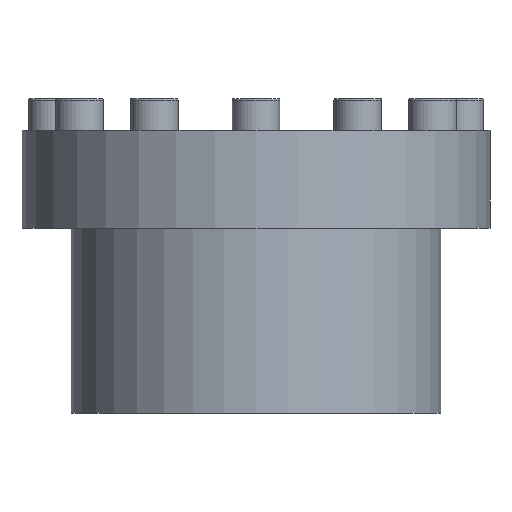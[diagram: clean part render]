
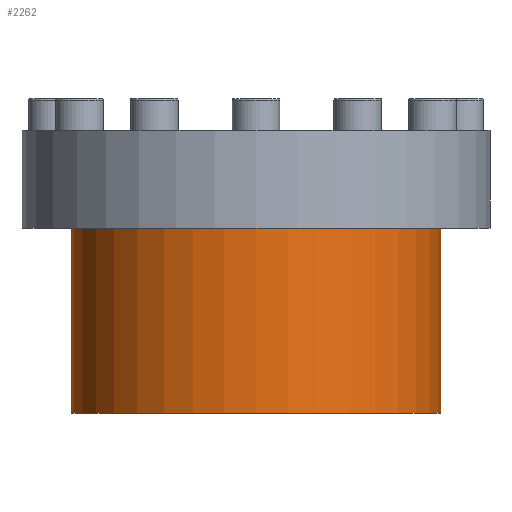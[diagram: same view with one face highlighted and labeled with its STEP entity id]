
A CAD part, front view. The second image highlights one B-rep face of the part: STEP entity #2262.
In plain terms, the highlighted cylindrical face has radius 69.9 mm (diameter 139.8 mm), a partial arc.
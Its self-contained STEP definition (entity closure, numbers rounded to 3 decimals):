
#266 = CARTESIAN_POINT ( 'NONE',  ( 69.9, 0., 0. ) ) ;
#316 = CARTESIAN_POINT ( 'NONE',  ( -69.9, 0., -107. ) ) ;
#372 = AXIS2_PLACEMENT_3D ( 'NONE', #2671, #971, #3657 ) ;
#470 = VERTEX_POINT ( 'NONE', #316 ) ;
#493 = EDGE_CURVE ( 'NONE', #470, #2971, #749, .T. ) ;
#521 = ORIENTED_EDGE ( 'NONE', *, *, #2220, .T. ) ;
#607 = DIRECTION ( 'NONE',  ( 0., 0., 1. ) ) ;
#624 = DIRECTION ( 'NONE',  ( 1., 0., 0. ) ) ;
#691 = VERTEX_POINT ( 'NONE', #4199 ) ;
#749 = CIRCLE ( 'NONE', #372, 69.9 ) ;
#938 = AXIS2_PLACEMENT_3D ( 'NONE', #2507, #1834, #3521 ) ;
#942 = EDGE_LOOP ( 'NONE', ( #2771, #4282, #521, #1580 ) ) ;
#971 = DIRECTION ( 'NONE',  ( 0., 0., 1. ) ) ;
#1188 = CYLINDRICAL_SURFACE ( 'NONE', #3286, 69.9 ) ;
#1326 = EDGE_CURVE ( 'NONE', #470, #691, #4071, .T. ) ;
#1546 = DIRECTION ( 'NONE',  ( 0., 0., 1. ) ) ;
#1580 = ORIENTED_EDGE ( 'NONE', *, *, #1985, .F. ) ;
#1834 = DIRECTION ( 'NONE',  ( 0., 0., 1. ) ) ;
#1985 = EDGE_CURVE ( 'NONE', #691, #3403, #3095, .T. ) ;
#2051 = VECTOR ( 'NONE', #1546, 1000. ) ;
#2220 = EDGE_CURVE ( 'NONE', #2971, #3403, #3893, .T. ) ;
#2262 = ADVANCED_FACE ( 'NONE', ( #2978 ), #1188, .T. ) ;
#2507 = CARTESIAN_POINT ( 'NONE',  ( 0., 0., -37. ) ) ;
#2671 = CARTESIAN_POINT ( 'NONE',  ( 0., 0., -107. ) ) ;
#2771 = ORIENTED_EDGE ( 'NONE', *, *, #1326, .F. ) ;
#2971 = VERTEX_POINT ( 'NONE', #3766 ) ;
#2978 = FACE_OUTER_BOUND ( 'NONE', #942, .T. ) ;
#3007 = DIRECTION ( 'NONE',  ( 0., 0., 1. ) ) ;
#3095 = CIRCLE ( 'NONE', #938, 69.9 ) ;
#3119 = CARTESIAN_POINT ( 'NONE',  ( 69.9, 0., -37. ) ) ;
#3286 = AXIS2_PLACEMENT_3D ( 'NONE', #3354, #3007, #624 ) ;
#3354 = CARTESIAN_POINT ( 'NONE',  ( 0., 0., 0. ) ) ;
#3403 = VERTEX_POINT ( 'NONE', #3119 ) ;
#3521 = DIRECTION ( 'NONE',  ( 1., 0., 0. ) ) ;
#3657 = DIRECTION ( 'NONE',  ( 1., 0., 0. ) ) ;
#3766 = CARTESIAN_POINT ( 'NONE',  ( 69.9, 0., -107. ) ) ;
#3812 = CARTESIAN_POINT ( 'NONE',  ( -69.9, 0., 0. ) ) ;
#3893 = LINE ( 'NONE', #266, #4219 ) ;
#4071 = LINE ( 'NONE', #3812, #2051 ) ;
#4199 = CARTESIAN_POINT ( 'NONE',  ( -69.9, 0., -37. ) ) ;
#4219 = VECTOR ( 'NONE', #607, 1000. ) ;
#4282 = ORIENTED_EDGE ( 'NONE', *, *, #493, .T. ) ;
